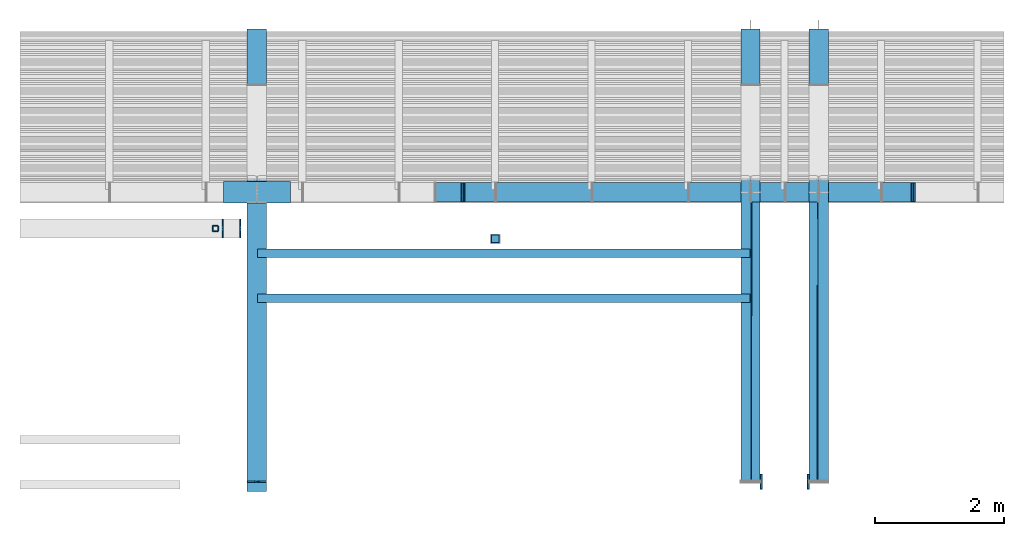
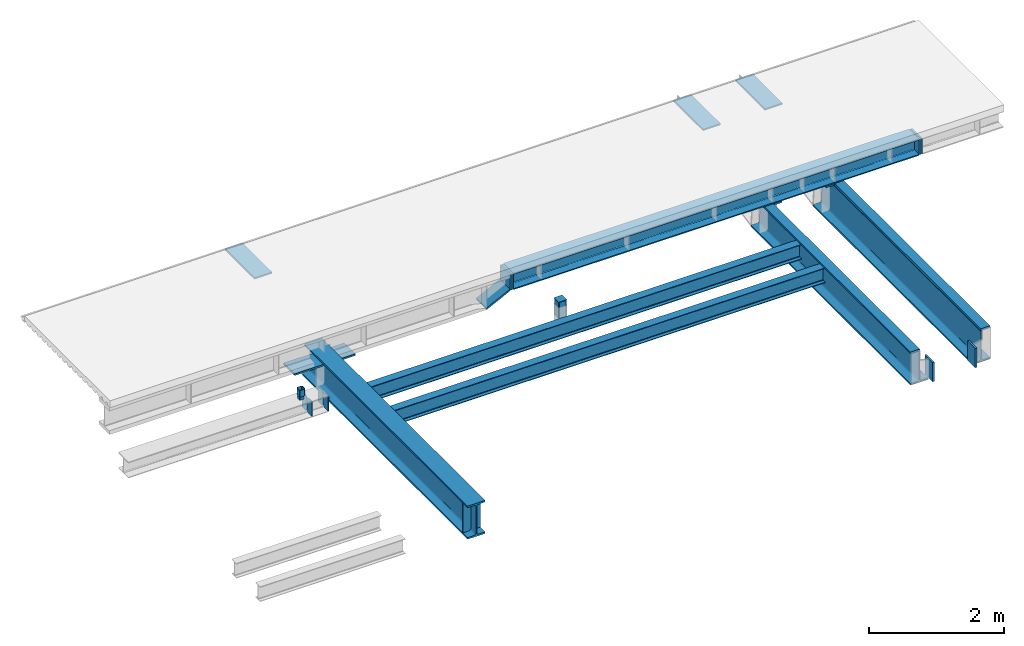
# One storey, part 1 of 12: 16 beams, 8 columns, 2 plates, 1 member.
"""IFC2X3 building model written with IfcOpenShell, lengths in millimetres."""

from ifc_helpers import new_model, entity, si_unit, converted_unit, derived_unit, direction, frame, origin_with_axes, origin_2d_with_axis, place, context, subcontext, project, spatial, polyline, rectangle, hollow_rectangle, i_section, outline, extrude, boolean, clip, halfspace, material, type_object, element, save


model = new_model("IFC2X3")

# Units and contexts
model_context = context("Model", 3, precision=0.01, world=frame((0.0, 4.29681676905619e-09, 0.0)), true_north=direction((4.01073788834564e-13, 1.0)))
plan_context = context("Plan", 3, precision=0.01, world=frame((0.0, 4.29681676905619e-09, 0.0)), true_north=direction((4.01073788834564e-13, 1.0)))
body_context = subcontext(model_context, "Body", "Model", "MODEL_VIEW")
ifc_project = project(units=[converted_unit("PLANEANGLEUNIT", "DEGREE", entity("IfcPositiveLengthMeasure", 0.0174532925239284), si_unit("PLANEANGLEUNIT", "RADIAN"), dimensions=[0, 0, 0, 0, 0, 0, 0]), si_unit("AREAUNIT", "SQUARE_METRE"), si_unit("LENGTHUNIT", "METRE", prefix="MILLI"), si_unit("MASSUNIT", "GRAM", prefix="KILO"), si_unit("POWERUNIT", "WATT"), si_unit("PRESSUREUNIT", "PASCAL"), si_unit("FORCEUNIT", "NEWTON", prefix="KILO"), si_unit("ELECTRICVOLTAGEUNIT", "VOLT"), si_unit("ELECTRICCURRENTUNIT", "AMPERE"), si_unit("THERMODYNAMICTEMPERATUREUNIT", "DEGREE_CELSIUS"), si_unit("TIMEUNIT", "SECOND"), si_unit("VOLUMEUNIT", "CUBIC_METRE"), derived_unit("LINEARVELOCITYUNIT", [(si_unit("LENGTHUNIT", "METRE"), 1), (si_unit("TIMEUNIT", "SECOND"), -1)]), derived_unit("VOLUMETRICFLOWRATEUNIT", [(si_unit("VOLUMEUNIT", "CUBIC_METRE"), 1), (si_unit("TIMEUNIT", "SECOND"), -1)]), derived_unit("THERMALTRANSMITTANCEUNIT", [(si_unit("POWERUNIT", "WATT"), 1), (si_unit("THERMODYNAMICTEMPERATUREUNIT", "KELVIN"), -1), (si_unit("AREAUNIT", "SQUARE_METRE"), -1)]), derived_unit("SOUNDPRESSUREUNIT", [(si_unit("PRESSUREUNIT", "PASCAL"), 1)])], contexts=[model_context, plan_context])

# Site, building, storey
site_placement = place(None, frame((0.0, -4.29681676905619e-09, 0.0), z_axis=(0.0, 0.0, 1.0), x_axis=(1.0, 0.0, 0.0)))
site = spatial("IfcSite", under=ifc_project, at=site_placement, Name="Gardermoen", CompositionType="ELEMENT")
building_placement = place(site_placement, frame((0.0, 4.29681676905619e-09, 0.0), z_axis=(0.0, 0.0, 1.0), x_axis=(1.0, 0.0, 0.0)))
building = spatial("IfcBuilding", under=site, at=building_placement, Name="TH", CompositionType="ELEMENT")
storey_placement = place(building_placement, origin_with_axes())
storey = spatial("IfcBuildingStorey", under=building, at=storey_placement, Name="D", CompositionType="ELEMENT", Elevation=0.0)

# Columns
ifc_material = material(Name="STEEL/S355")
column_type_1 = type_object("IfcColumnType", Name="PL30*300", PredefinedType="NOTDEFINED")
for number, where, z_axis, x_axis in (
    (1, (908985.000000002, 484999.995625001, 209750.0), (0.0, 0.0, 1.0), (0.0, 1.0, 0.0)),
    (2, (909015.000000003, 484999.995625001, 209750.0), (0.0, 0.0, 1.0), (0.0, 1.0, 0.0)),
    (3, (901985.000000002, 484999.995625, 209750.0), (0.0, 0.0, 1.0), (0.0, -1.0, 0.0)),
    (4, (902015.000000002, 484999.995625, 209750.0), (0.0, 0.0, 1.0), (0.0, -1.0, 0.0)),
):
    element("IfcColumn", number, at=place(storey_placement, frame(where, z_axis=z_axis, x_axis=x_axis)), inside=storey, type_object=column_type_1, material=ifc_material, Name="STÅLBJELKE", ObjectType="PL30*300", context=body_context, shape_type="SweptSolid", body=[
        extrude(rectangle(XDim=30.0, YDim=300.0, at=origin_2d_with_axis()), frame((0.0, 0.0, 280.0), z_axis=(-3.99999553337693e-08, 0.0, -0.999999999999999), x_axis=(0.0, 1.0, 0.0)), (0.0, 0.0, 1.0), 280.0),
    ])
column_type_2 = type_object("IfcColumnType", Name="PL30*230", PredefinedType="NOTDEFINED")
for number, where, z_axis, x_axis in (
    (5, (907365.000234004, 480497.5, 209174.999885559), (0.0, 0.0, 1.0), (0.0, -1.0, 0.0)),
    (6, (906634.999766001, 480497.5, 209174.999885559), (0.0, 0.0, 1.0), (0.0, -1.0, 0.0)),
):
    element("IfcColumn", number, at=place(storey_placement, frame(where, z_axis=z_axis, x_axis=x_axis)), inside=storey, type_object=column_type_2, material=ifc_material, Name="STÅLSPESIAL", ObjectType="PL30*230", context=body_context, shape_type="SweptSolid", body=[
        extrude(rectangle(XDim=30.0, YDim=230.0, at=origin_2d_with_axis()), frame((0.0, 0.0, 350.000000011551), z_axis=(-3.99999553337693e-08, 0.0, -0.999999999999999), x_axis=(0.0, 1.0, 0.0)), (0.0, 0.0, 1.0), 350.0),
    ])
column_type_3 = type_object("IfcColumnType", Name="RHS140*8", PredefinedType="NOTDEFINED")
column_1_placement = place(storey_placement, frame((902499.999766, 484274.995625, 209465.0), z_axis=(0.0, 0.0, 1.0), x_axis=(0.0, -1.0, 0.0)))
element("IfcColumn", 7, at=column_1_placement, inside=storey, type_object=column_type_3, material=ifc_material, Name="STÅLSØYLE", ObjectType="RHS140*8", context=body_context, shape_type="SweptSolid", body=[
    extrude(hollow_rectangle(XDim=140.0, YDim=140.0, WallThickness=8.0, InnerFilletRadius=12.0, OuterFilletRadius=20.0, at=origin_2d_with_axis()), frame((0.0, 0.0, 290.0), z_axis=(-3.99999553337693e-08, 0.0, -0.999999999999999), x_axis=(0.0, 1.0, 0.0)), (0.0, 0.0, 1.0), 290.0),
])
column_type_4 = type_object("IfcColumnType", Name="140*10", PredefinedType="NOTDEFINED")
column_2_placement = place(storey_placement, frame((902499.999766, 484204.995625, 209760.0), z_axis=(0.0, 1.0, 0.0), x_axis=(1.0, 0.0, 0.0)))
element("IfcColumn", 8, at=column_2_placement, inside=storey, type_object=column_type_4, material=ifc_material, Name="STÅLSØYLE", ObjectType="140*10", context=body_context, shape_type="SweptSolid", body=[
    extrude(rectangle(XDim=10.0, YDim=140.0, at=origin_2d_with_axis()), frame((0.0, 0.0, 140.0), z_axis=(-3.99999553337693e-08, 0.0, -0.999999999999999), x_axis=(0.0, 1.0, 0.0)), (0.0, 0.0, 1.0), 140.0),
])

# Beams
beam_type_1 = type_object("IfcBeamType", Name="IPE270", PredefinedType="NOTDEFINED")
for number, where, z_axis, x_axis in (
    (9, (898802.751809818, 484053.63, 209400.0), (0.0, 0.0, 1.0), (1.0, 0.0, 0.0)),
    (10, (898802.751809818, 483353.63, 209400.0), (0.0, 0.0, 1.0), (1.0, 0.0, 0.0)),
):
    element("IfcBeam", number, at=place(storey_placement, frame(where, z_axis=z_axis, x_axis=x_axis)), inside=storey, type_object=beam_type_1, material=ifc_material, Name="STÅLBJELKE", ObjectType="IPE270", context=body_context, shape_type="SweptSolid", body=[
        extrude(i_section(OverallWidth=135.0, OverallDepth=270.0, WebThickness=6.599999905, FlangeThickness=10.19999981, FilletRadius=15.0, at=origin_2d_with_axis()), frame((7659.5, 0.0, 0.0), z_axis=(-1.0, 0.0, 6.61744490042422e-24), x_axis=(0.0, -1.0, 0.0)), (0.0, 0.0, 1.0), 7659.5),
    ])
beam_type_2 = type_object("IfcBeamType", Name="HEB300", PredefinedType="NOTDEFINED")
beam_1_placement = place(storey_placement, frame((902030.000000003, 484999.995625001, 209890.0), z_axis=(0.0, 0.0, 1.0), x_axis=(1.0, 0.0, 0.0)))
element("IfcBeam", 11, at=beam_1_placement, inside=storey, type_object=beam_type_2, material=ifc_material, Name="STÅLBJELKE", ObjectType="HEB300", context=body_context, shape_type="SweptSolid", body=[
    extrude(i_section(OverallWidth=300.0, OverallDepth=300.0, WebThickness=11.0, FlangeThickness=19.0, FilletRadius=27.0, at=origin_2d_with_axis()), frame((6939.99999999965, 0.0, 0.0), z_axis=(-1.0, 0.0, 6.61744490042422e-24), x_axis=(0.0, -1.0, 0.0)), (0.0, 0.0, 1.0), 6940.0),
])
beam_type_3 = type_object("IfcBeamType", Name="PL30*300", PredefinedType="NOTDEFINED")
beam_2_placement = place(storey_placement, frame((907530.000000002, 486664.132163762, 210025.0), z_axis=(-1.0, 0.0, 6.61744490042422e-24), x_axis=(0.0, 1.0, 0.0)))
element("IfcBeam", 12, at=beam_2_placement, inside=storey, type_object=beam_type_3, material=ifc_material, Name="STÅLBJELKE", ObjectType="PL30*300", context=body_context, shape_type="Clipping", body=[
    clip(extrude(rectangle(XDim=30.0, YDim=300.0, at=origin_2d_with_axis()), frame((875.863461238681, 0.0, 0.0), z_axis=(-1.0, 0.0, 6.61744490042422e-24), x_axis=(0.0, -1.0, 0.0)), (0.0, 0.0, 1.0), 875.88), halfspace(frame((0.0, -15.0, 149.999999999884), z_axis=(-0.994968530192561, 0.100187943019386, 0.0), x_axis=(0.100187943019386, 0.994968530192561, 0.0)), False)),
])
for number, where, z_axis, x_axis in (
    (13, (906470.000000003, 486664.132163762, 210025.0), (1.0, 0.0, 0.0), (0.0, 1.0, 0.0)),
    (14, (898795.000000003, 486664.132163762, 210025.0), (1.0, 0.0, 0.0), (0.0, 1.0, 0.0)),
):
    element("IfcBeam", number, at=place(storey_placement, frame(where, z_axis=z_axis, x_axis=x_axis)), inside=storey, type_object=beam_type_3, material=ifc_material, Name="STÅLBJELKE", ObjectType="PL30*300", context=body_context, shape_type="Clipping", body=[
        clip(extrude(rectangle(XDim=30.0, YDim=300.0, at=origin_2d_with_axis()), frame((875.863461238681, 0.0, 0.0), z_axis=(-1.0, 0.0, 6.61744490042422e-24), x_axis=(0.0, -1.0, 0.0)), (0.0, 0.0, 1.0), 875.88), halfspace(frame((0.0, 15.0, 149.999999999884), z_axis=(-0.99496853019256, -0.100187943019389, 0.0), x_axis=(0.0, 0.0, 1.0)), False)),
    ])
beam_type_4 = type_object("IfcBeamType", Name="HEB600", PredefinedType="NOTDEFINED")
beam_3_placement = place(storey_placement, frame((907530.000000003, 480515.0, 209440.0), z_axis=(0.0, 0.0, 1.0), x_axis=(0.0, 1.0, 0.0)))
element("IfcBeam", 15, at=beam_3_placement, inside=storey, type_object=beam_type_4, material=ifc_material, Name="STÅLBJELKE", ObjectType="HEB600", context=body_context, shape_type="CSG", body=[
    boolean("DIFFERENCE", boolean("DIFFERENCE", extrude(i_section(OverallWidth=300.0, OverallDepth=600.0, WebThickness=15.5, FlangeThickness=30.0, FilletRadius=27.0, at=origin_2d_with_axis()), frame((4735.30208385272, 0.0, 0.0), z_axis=(-1.0, 0.0, 6.61744490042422e-24), x_axis=(0.0, -1.0, 0.0)), (0.0, 0.0, 1.0), 4735.3), extrude(outline(polyline([(0.0, 0.0), (152.25, -5.82076609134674e-11), (152.25, 4344.99560546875), (-2.3283064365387e-10, 4344.99560546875), (0.0, 0.0)])), frame((-10.0, 7.74999999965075, 310.000000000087), z_axis=(-3.99999553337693e-08, 0.0, -0.999999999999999), x_axis=(0.0, 1.0, 0.0)), (0.0, 0.0, 1.0), 50.0)), halfspace(frame((4735.00000009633, 150.000000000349, -299.999999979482), z_axis=(0.994968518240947, 0.0, 0.100188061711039), x_axis=(-0.100188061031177, 0.0, 0.994968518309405)), False)),
])
beam_4_placement = place(storey_placement, frame((906470.000000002, 480515.0, 209440.0), z_axis=(0.0, 0.0, 1.0), x_axis=(0.0, 1.0, 0.0)))
element("IfcBeam", 16, at=beam_4_placement, inside=storey, type_object=beam_type_4, material=ifc_material, Name="STÅLBJELKE", ObjectType="HEB600", context=body_context, shape_type="CSG", body=[
    boolean("DIFFERENCE", boolean("DIFFERENCE", extrude(i_section(OverallWidth=300.0, OverallDepth=600.0, WebThickness=15.5, FlangeThickness=30.0, FilletRadius=27.0, at=origin_2d_with_axis()), frame((4735.30208385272, 0.0, 0.0), z_axis=(-1.0, 0.0, 6.61744490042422e-24), x_axis=(0.0, -1.0, 0.0)), (0.0, 0.0, 1.0), 4735.3), extrude(outline(polyline([(0.0, 0.0), (152.25, -5.82076609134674e-11), (152.25, 4344.99560546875), (-2.3283064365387e-10, 4344.99560546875), (0.0, 0.0)])), frame((-10.0, -7.74999999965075, 260.000000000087), z_axis=(0.0, 0.0, 1.0), x_axis=(0.0, -1.0, 0.0)), (0.0, 0.0, 1.0), 50.0)), halfspace(frame((4735.00000009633, -150.000000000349, -299.999999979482), z_axis=(0.994968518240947, 0.0, 0.100188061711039), x_axis=(0.0, -1.0, 0.0)), False)),
])
beam_5_placement = place(storey_placement, frame((898795.000000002, 480349.999252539, 209440.0), z_axis=(0.0, 0.0, 1.0), x_axis=(0.0, 1.0, 0.0)))
element("IfcBeam", 17, at=beam_5_placement, inside=storey, type_object=beam_type_4, material=ifc_material, Name="STÅLBJELKE", ObjectType="HEB600", context=body_context, shape_type="CSG", body=[
    boolean("DIFFERENCE", boolean("DIFFERENCE", extrude(i_section(OverallWidth=300.0, OverallDepth=600.0, WebThickness=15.5, FlangeThickness=30.0, FilletRadius=27.0, at=origin_2d_with_axis()), frame((4900.30283131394, 0.0, 0.0), z_axis=(-1.0, 0.0, 6.61744490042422e-24), x_axis=(0.0, -1.0, 0.0)), (0.0, 0.0, 1.0), 4900.3), extrude(rectangle(XDim=32.0, YDim=332.0, at=origin_2d_with_axis()), frame((4649.99637246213, -120.000000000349, 84.0), z_axis=(0.0, 1.0, 0.0), x_axis=(0.0, 0.0, 1.0)), (0.0, 0.0, 1.0), 240.0)), halfspace(frame((4900.00074755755, -150.000000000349, -299.999999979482), z_axis=(0.994968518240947, 0.0, 0.100188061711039), x_axis=(0.0, -1.0, 0.0)), False)),
])
beam_type_5 = type_object("IfcBeamType", Name="PL30*330", PredefinedType="NOTDEFINED")
beam_6_placement = place(storey_placement, frame((898275.000000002, 484999.995625, 209525.0), z_axis=(0.0, 1.0, 0.0), x_axis=(1.0, 0.0, 0.0)))
element("IfcBeam", 18, at=beam_6_placement, inside=storey, type_object=beam_type_5, material=ifc_material, Name="STÅLSPESIAL", ObjectType="PL30*330", context=body_context, shape_type="SweptSolid", body=[
    extrude(rectangle(XDim=30.0, YDim=330.0, at=origin_2d_with_axis()), frame((1040.0, 0.0, 0.0), z_axis=(-1.0, 0.0, 6.61744490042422e-24), x_axis=(0.0, -1.0, 0.0)), (0.0, 0.0, 1.0), 1040.0),
])
beam_type_6 = type_object("IfcBeamType", Name="PL16*140", PredefinedType="NOTDEFINED")
beam_7_placement = place(storey_placement, frame((898538.001809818, 484290.75, 209371.0), z_axis=(-1.0, 0.0, 6.61744490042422e-24), x_axis=(0.0, 1.0, 0.0)))
element("IfcBeam", 19, at=beam_7_placement, inside=storey, type_object=beam_type_6, material=ifc_material, Name="STÅLBJELKE", ObjectType="PL16*140", context=body_context, shape_type="SweptSolid", body=[
    extrude(outline(polyline([(0.0, 0.0), (110.0, 0.0), (140.0, 30.0), (140.0, 232.0), (110.0, 262.0), (0.0, 262.0), (0.0, 0.0)])), frame((0.0, 0.0, -8.0), z_axis=(0.0, 0.0, 1.0), x_axis=(1.0, 0.0, 0.0)), (0.0, 0.0, 1.0), 16.0),
])
beam_8_placement = place(storey_placement, frame((898538.001809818, 484439.25, 209371.0), z_axis=(-1.0, 0.0, 6.61744490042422e-24), x_axis=(0.0, 1.0, 0.0)))
element("IfcBeam", 20, at=beam_8_placement, inside=storey, type_object=beam_type_6, material=ifc_material, Name="STÅLBJELKE", ObjectType="PL16*140", context=body_context, shape_type="SweptSolid", body=[
    extrude(outline(polyline([(0.0, 30.0), (30.0, 1.17239551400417e-13), (140.0, 2.61934474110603e-10), (140.0, 261.999999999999), (30.0, 261.999999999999), (0.0, 231.999999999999), (0.0, 30.0)])), frame((0.0, 0.0, -8.0), z_axis=(0.0, 0.0, 1.0), x_axis=(1.0, 0.0, 0.0)), (0.0, 0.0, 1.0), 16.0),
])
beam_9_placement = place(storey_placement, frame((898262.001809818, 484290.75, 209371.0), z_axis=(-1.0, 0.0, 6.61744490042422e-24), x_axis=(0.0, 1.0, 0.0)))
element("IfcBeam", 21, at=beam_9_placement, inside=storey, type_object=beam_type_6, material=ifc_material, Name="STÅLBJELKE", ObjectType="PL16*140", context=body_context, shape_type="SweptSolid", body=[
    extrude(outline(polyline([(0.0, 0.0), (110.0, 0.0), (140.0, 30.0), (140.0, 232.0), (110.0, 262.0), (0.0, 262.0), (0.0, 0.0)])), frame((0.0, 0.0, -8.0), z_axis=(0.0, 0.0, 1.0), x_axis=(1.0, 0.0, 0.0)), (0.0, 0.0, 1.0), 16.0),
])
beam_10_placement = place(storey_placement, frame((898262.001809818, 484439.25, 209371.0), z_axis=(-1.0, 0.0, 6.61744490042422e-24), x_axis=(0.0, 1.0, 0.0)))
element("IfcBeam", 22, at=beam_10_placement, inside=storey, type_object=beam_type_6, material=ifc_material, Name="STÅLBJELKE", ObjectType="PL16*140", context=body_context, shape_type="SweptSolid", body=[
    extrude(outline(polyline([(0.0, 30.0), (30.0, 1.17239551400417e-13), (140.0, 2.61934474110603e-10), (140.0, 261.999999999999), (30.0, 261.999999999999), (0.0, 231.999999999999), (0.0, 30.0)])), frame((0.0, 0.0, -8.0), z_axis=(0.0, 0.0, 1.0), x_axis=(1.0, 0.0, 0.0)), (0.0, 0.0, 1.0), 16.0),
])
beam_type_7 = type_object("IfcBeamType", Name="RHS80*5", PredefinedType="NOTDEFINED")
beam_11_placement = place(storey_placement, frame((898149.999766, 484435.0, 209385.0), z_axis=(-0.99999999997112, -7.6000000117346e-06, 0.0), x_axis=(0.0, 0.0, 1.0)))
element("IfcBeam", 23, at=beam_11_placement, inside=storey, type_object=beam_type_7, material=ifc_material, Name="STÅLBJELKE", ObjectType="RHS80*5", context=body_context, shape_type="SweptSolid", body=[
    extrude(hollow_rectangle(XDim=80.0, YDim=80.0, WallThickness=5.0, InnerFilletRadius=7.5, OuterFilletRadius=12.5, at=origin_2d_with_axis()), frame((119.999999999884, 0.0, 0.0), z_axis=(-1.0, 0.0, 6.61744490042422e-24), x_axis=(0.0, -1.0, 0.0)), (0.0, 0.0, 1.0), 120.0),
])
beam_type_8 = type_object("IfcBeamType", Name="RHS100*8", PredefinedType="NOTDEFINED")
beam_12_placement = place(storey_placement, frame((898149.999766, 484435.0, 209450.0), z_axis=(-0.99999999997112, -7.6000000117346e-06, 0.0), x_axis=(0.0, 0.0, 1.0)))
element("IfcBeam", 24, at=beam_12_placement, inside=storey, type_object=beam_type_8, material=ifc_material, Name="STÅLBJELKE", ObjectType="RHS100*8", context=body_context, shape_type="SweptSolid", body=[
    extrude(hollow_rectangle(XDim=100.0, YDim=100.0, WallThickness=8.0, InnerFilletRadius=12.0, OuterFilletRadius=20.0, at=origin_2d_with_axis()), frame((119.999999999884, 0.0, 0.0), z_axis=(-1.0, 0.0, 6.61744490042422e-24), x_axis=(0.0, -1.0, 0.0)), (0.0, 0.0, 1.0), 120.0),
])

# Member
member_type = type_object("IfcMemberType", Name="PL30*300", PredefinedType="NOTDEFINED")
member_placement = place(storey_placement, frame((901963.292232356, 484999.995625, 209753.416407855), z_axis=(0.0, -1.0, 0.0), x_axis=(-0.894427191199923, 0.0, -0.447213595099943)))
element("IfcMember", 25, at=member_placement, inside=storey, type_object=member_type, material=ifc_material, Name="STÅLBJELKE", ObjectType="PL30*300", context=body_context, shape_type="Clipping", body=[
    clip(clip(extrude(rectangle(XDim=30.0, YDim=300.0, at=origin_2d_with_axis()), frame((461.221758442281, 0.0, -5.82076609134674e-11), z_axis=(-1.0, 0.0, 6.61744490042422e-24), x_axis=(0.0, -1.0, 0.0)), (0.0, 0.0, 1.0), 486.27), halfspace(frame((447.213595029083, 14.9999999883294, 149.999999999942), z_axis=(-0.973248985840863, 0.229752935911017, 0.0), x_axis=(0.0, 0.0, 1.0)), True)), halfspace(frame((89.4431096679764, 193.885242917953, 149.999999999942), z_axis=(-0.894426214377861, 0.447215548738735, 0.0), x_axis=(0.0, 0.0, 1.0)), False)),
])

# Plates
plate_type = type_object("IfcPlateType", Name="PL20*140", PredefinedType="NOTDEFINED")
for number, where, z_axis, x_axis in (
    (26, (898647.250000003, 480500.0, 209171.0), (0.0, -1.0, 0.0), (1.0, 0.0, 0.0)),
    (27, (898942.750000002, 480500.0, 209171.0), (0.0, 1.0, 0.0), (-1.0, 0.0, 6.61744490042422e-24)),
):
    element("IfcPlate", number, at=place(storey_placement, frame(where, z_axis=z_axis, x_axis=x_axis)), inside=storey, type_object=plate_type, material=ifc_material, Name="STÅLBJELKE", ObjectType="PL20*140", context=body_context, shape_type="SweptSolid", body=[
        extrude(outline(polyline([(0.0, 0.0), (110.0, 0.0), (140.0, 30.0), (140.0, 508.0), (110.0, 538.0), (0.0, 538.0), (0.0, 0.0)])), frame((-1.16415321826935e-10, 5.82076609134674e-11, -10.0), z_axis=(0.0, 0.0, 1.0), x_axis=(1.0, 0.0, 0.0)), (0.0, 0.0, 1.0), 20.0),
    ])

save(model, "model.ifc")
